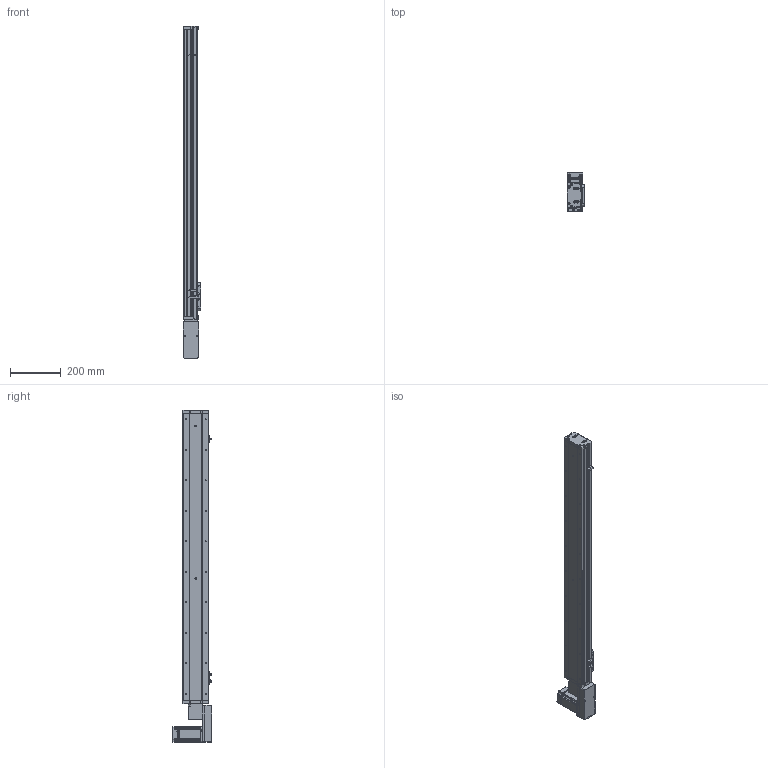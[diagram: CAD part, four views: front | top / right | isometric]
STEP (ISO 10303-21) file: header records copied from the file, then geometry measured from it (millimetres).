
FILE_DESCRIPTION (( 'STEP AP214' ), '1' );
FILE_NAME ('KSD100B-S950-MRB-CR.STEP', '2019-11-13T06:17:43', ( '微软用户' ), ( '微软中国' ), 'SwSTEP 2.0', 'SolidWorks 2014', '' );
FILE_SCHEMA (( 'AUTOMOTIVE_DESIGN' ));
Length unit declared in the file: millimetre
Products named in the file (15): 100宽底板全封闭950行程同步带; KSD100B-S950-MRB-CR; MHMD042G1CA_2_03; 悵誘欶奻狟殏; 100宽马达安装板连板上下折丝杆同步带; U倰嫖萇EEㄜSX672; 感应片100宽全封闭; 100宽马达安装板同步带右; 100遵鎮湛假蚾啣蜊; 100宽端板同步带全封闭; 100宽滚珠螺姆安装板1防护罩; 100宽滚珠螺姆安装板1; 100遵裔啣揤啣; 100遵裔啣950俴最; 100宽侧板950行程同步带
Assembly tree (18 placements, depth 2):
  KSD100B-S950-MRB-CR
    100宽底板全封闭950行程同步带
    100宽侧板950行程同步带  x2
    100遵裔啣950俴最
    100遵裔啣揤啣  x2
    100宽滚珠螺姆安装板1
    100宽滚珠螺姆安装板1防护罩
    100宽端板同步带全封闭
    100遵鎮湛假蚾啣蜊
    100宽马达安装板同步带右
    感应片100宽全封闭
    U倰嫖萇EEㄜSX672  x3
    100宽马达安装板连板上下折丝杆同步带
    悵誘欶奻狟殏
    MHMD042G1CA_2_03
Bounding box: 70 x 156.2 x 1307 mm (x, y, z)
Volume: 2414253.1 mm3; surface area: 1072504.4 mm2
Topology: 17 solids, 18 shells, 1821 faces, 5084 edges, 3247 vertices
Faces by surface type: cylinder 821, plane 737, cone 243, bspline 20
Entity records: 64532 total; most frequent: CARTESIAN_POINT 9902, DIRECTION 8824, ORIENTED_EDGE 8136, EDGE_CURVE 4140, AXIS2_PLACEMENT_3D 3199, VERTEX_POINT 2745, VECTOR 2426, LINE 2426
